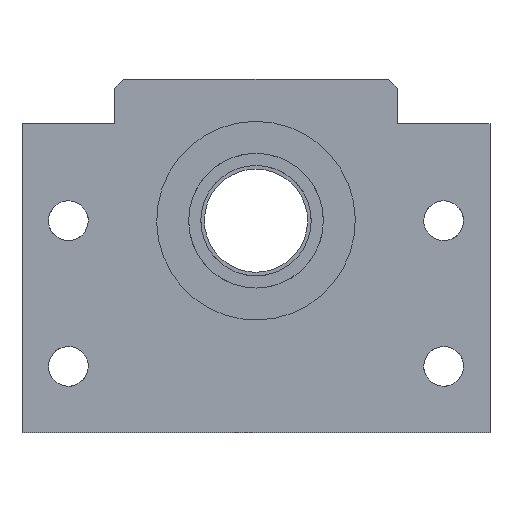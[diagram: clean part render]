
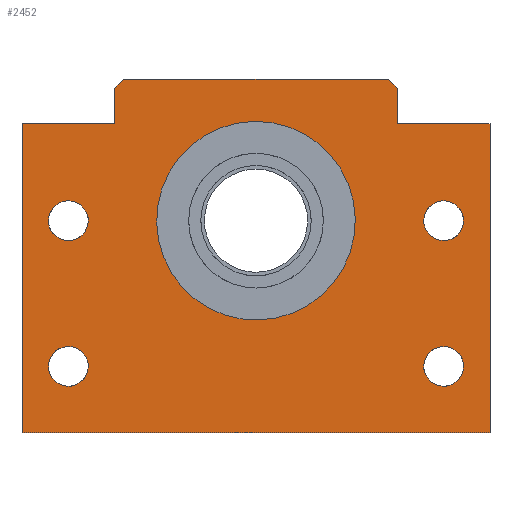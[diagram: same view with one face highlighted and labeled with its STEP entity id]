
A CAD part, left-side view. The second image highlights one B-rep face of the part: STEP entity #2452.
In plain terms, the highlighted planar face has unit normal (-1, 0, 0).
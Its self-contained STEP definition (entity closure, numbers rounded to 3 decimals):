
#70=CARTESIAN_POINT('Vertex',(-42.,38.551,-30.843)) ;
#75=CARTESIAN_POINT('Axis2P3D Location',(-42.,42.5,-33.)) ;
#79=CARTESIAN_POINT('Vertex',(-42.,46.449,-35.157)) ;
#130=CARTESIAN_POINT('Axis2P3D Location',(-42.,42.5,-33.)) ;
#272=CARTESIAN_POINT('Line Origine',(-42.,0.,-48.)) ;
#276=CARTESIAN_POINT('Vertex',(-42.,-53.,-48.)) ;
#278=CARTESIAN_POINT('Vertex',(-42.,53.,-48.)) ;
#384=CARTESIAN_POINT('Line Origine',(-42.,-53.,-13.)) ;
#388=CARTESIAN_POINT('Vertex',(-42.,-53.,22.)) ;
#478=CARTESIAN_POINT('Line Origine',(-42.,-42.5,22.)) ;
#482=CARTESIAN_POINT('Vertex',(-42.,-32.,22.)) ;
#545=CARTESIAN_POINT('Line Origine',(-42.,-32.,26.)) ;
#549=CARTESIAN_POINT('Vertex',(-42.,-32.,30.)) ;
#587=CARTESIAN_POINT('Vertex',(-42.,-30.,32.)) ;
#590=CARTESIAN_POINT('Line Origine',(-42.,-31.,31.)) ;
#618=CARTESIAN_POINT('Vertex',(-42.,30.,32.)) ;
#621=CARTESIAN_POINT('Line Origine',(-42.,0.,32.)) ;
#649=CARTESIAN_POINT('Vertex',(-42.,32.,30.)) ;
#652=CARTESIAN_POINT('Line Origine',(-42.,31.,31.)) ;
#680=CARTESIAN_POINT('Vertex',(-42.,32.,22.)) ;
#683=CARTESIAN_POINT('Line Origine',(-42.,32.,26.)) ;
#695=CARTESIAN_POINT('Line Origine',(-42.,42.5,22.)) ;
#699=CARTESIAN_POINT('Vertex',(-42.,53.,22.)) ;
#762=CARTESIAN_POINT('Axis2P3D Location',(-42.,0.,0.)) ;
#766=CARTESIAN_POINT('Vertex',(-42.,19.746,10.787)) ;
#768=CARTESIAN_POINT('Vertex',(-42.,-19.746,-10.787)) ;
#797=CARTESIAN_POINT('Axis2P3D Location',(-42.,0.,0.)) ;
#1666=CARTESIAN_POINT('Line Origine',(-42.,53.,-13.)) ;
#2239=CARTESIAN_POINT('Vertex',(-42.,38.551,2.157)) ;
#2242=CARTESIAN_POINT('Axis2P3D Location',(-42.,42.5,0.)) ;
#2246=CARTESIAN_POINT('Vertex',(-42.,46.449,-2.157)) ;
#2262=CARTESIAN_POINT('Axis2P3D Location',(-42.,42.5,0.)) ;
#2387=CARTESIAN_POINT('Axis2P3D Location',(-42.,0.,0.)) ;
#2416=CARTESIAN_POINT('Axis2P3D Location',(-42.,-42.5,0.)) ;
#2420=CARTESIAN_POINT('Vertex',(-42.,-46.449,2.157)) ;
#2422=CARTESIAN_POINT('Vertex',(-42.,-38.551,-2.157)) ;
#2425=CARTESIAN_POINT('Axis2P3D Location',(-42.,-42.5,0.)) ;
#2434=CARTESIAN_POINT('Axis2P3D Location',(-42.,-42.5,-33.)) ;
#2438=CARTESIAN_POINT('Vertex',(-42.,-46.449,-30.843)) ;
#2440=CARTESIAN_POINT('Vertex',(-42.,-38.551,-35.157)) ;
#2443=CARTESIAN_POINT('Axis2P3D Location',(-42.,-42.5,-33.)) ;
#76=DIRECTION('Axis2P3D Direction',(-1.,0.,-0.)) ;
#131=DIRECTION('Axis2P3D Direction',(-1.,0.,-0.)) ;
#273=DIRECTION('Vector Direction',(0.,-1.,0.)) ;
#385=DIRECTION('Vector Direction',(0.,0.,1.)) ;
#479=DIRECTION('Vector Direction',(0.,1.,0.)) ;
#546=DIRECTION('Vector Direction',(0.,0.,1.)) ;
#591=DIRECTION('Vector Direction',(0.,0.707,0.707)) ;
#622=DIRECTION('Vector Direction',(0.,1.,0.)) ;
#653=DIRECTION('Vector Direction',(0.,-0.707,0.707)) ;
#684=DIRECTION('Vector Direction',(0.,0.,-1.)) ;
#696=DIRECTION('Vector Direction',(0.,1.,0.)) ;
#763=DIRECTION('Axis2P3D Direction',(1.,0.,-0.)) ;
#798=DIRECTION('Axis2P3D Direction',(1.,0.,-0.)) ;
#1667=DIRECTION('Vector Direction',(0.,0.,-1.)) ;
#2243=DIRECTION('Axis2P3D Direction',(-1.,0.,0.)) ;
#2263=DIRECTION('Axis2P3D Direction',(-1.,0.,0.)) ;
#2388=DIRECTION('Axis2P3D Direction',(1.,0.,0.)) ;
#2389=DIRECTION('Axis2P3D XDirection',(0.,1.,0.)) ;
#2417=DIRECTION('Axis2P3D Direction',(1.,0.,0.)) ;
#2426=DIRECTION('Axis2P3D Direction',(1.,0.,0.)) ;
#2435=DIRECTION('Axis2P3D Direction',(1.,0.,0.)) ;
#2444=DIRECTION('Axis2P3D Direction',(1.,0.,0.)) ;
#77=AXIS2_PLACEMENT_3D('Circle Axis2P3D',#75,#76,$) ;
#132=AXIS2_PLACEMENT_3D('Circle Axis2P3D',#130,#131,$) ;
#764=AXIS2_PLACEMENT_3D('Circle Axis2P3D',#762,#763,$) ;
#799=AXIS2_PLACEMENT_3D('Circle Axis2P3D',#797,#798,$) ;
#2244=AXIS2_PLACEMENT_3D('Circle Axis2P3D',#2242,#2243,$) ;
#2264=AXIS2_PLACEMENT_3D('Circle Axis2P3D',#2262,#2263,$) ;
#2390=AXIS2_PLACEMENT_3D('Plane Axis2P3D',#2387,#2388,#2389) ;
#2418=AXIS2_PLACEMENT_3D('Circle Axis2P3D',#2416,#2417,$) ;
#2427=AXIS2_PLACEMENT_3D('Circle Axis2P3D',#2425,#2426,$) ;
#2436=AXIS2_PLACEMENT_3D('Circle Axis2P3D',#2434,#2435,$) ;
#2445=AXIS2_PLACEMENT_3D('Circle Axis2P3D',#2443,#2444,$) ;
#2393=ORIENTED_EDGE('',*,*,#594,.F.) ;
#2394=ORIENTED_EDGE('',*,*,#625,.F.) ;
#2395=ORIENTED_EDGE('',*,*,#656,.F.) ;
#2396=ORIENTED_EDGE('',*,*,#687,.F.) ;
#2397=ORIENTED_EDGE('',*,*,#701,.F.) ;
#2398=ORIENTED_EDGE('',*,*,#1670,.F.) ;
#2399=ORIENTED_EDGE('',*,*,#280,.F.) ;
#2400=ORIENTED_EDGE('',*,*,#390,.F.) ;
#2401=ORIENTED_EDGE('',*,*,#484,.F.) ;
#2402=ORIENTED_EDGE('',*,*,#551,.F.) ;
#2405=ORIENTED_EDGE('',*,*,#2266,.T.) ;
#2406=ORIENTED_EDGE('',*,*,#2248,.T.) ;
#2409=ORIENTED_EDGE('',*,*,#81,.T.) ;
#2410=ORIENTED_EDGE('',*,*,#134,.T.) ;
#2413=ORIENTED_EDGE('',*,*,#801,.T.) ;
#2414=ORIENTED_EDGE('',*,*,#770,.T.) ;
#2431=ORIENTED_EDGE('',*,*,#2424,.T.) ;
#2432=ORIENTED_EDGE('',*,*,#2429,.T.) ;
#2449=ORIENTED_EDGE('',*,*,#2442,.T.) ;
#2450=ORIENTED_EDGE('',*,*,#2447,.T.) ;
#2407=FACE_BOUND('',#2404,.T.) ;
#2411=FACE_BOUND('',#2408,.T.) ;
#2415=FACE_BOUND('',#2412,.T.) ;
#2433=FACE_BOUND('',#2430,.T.) ;
#2451=FACE_BOUND('',#2448,.T.) ;
#274=VECTOR('Line Direction',#273,1.) ;
#386=VECTOR('Line Direction',#385,1.) ;
#480=VECTOR('Line Direction',#479,1.) ;
#547=VECTOR('Line Direction',#546,1.) ;
#592=VECTOR('Line Direction',#591,1.) ;
#623=VECTOR('Line Direction',#622,1.) ;
#654=VECTOR('Line Direction',#653,1.) ;
#685=VECTOR('Line Direction',#684,1.) ;
#697=VECTOR('Line Direction',#696,1.) ;
#1668=VECTOR('Line Direction',#1667,1.) ;
#2452=ADVANCED_FACE('BK25(H)',(#2403,#2407,#2411,#2415,#2433,#2451),#2391,.F.) ;
#78=CIRCLE('generated circle',#77,4.5) ;
#133=CIRCLE('generated circle',#132,4.5) ;
#765=CIRCLE('generated circle',#764,22.5) ;
#800=CIRCLE('generated circle',#799,22.5) ;
#2245=CIRCLE('generated circle',#2244,4.5) ;
#2265=CIRCLE('generated circle',#2264,4.5) ;
#2419=CIRCLE('generated circle',#2418,4.5) ;
#2428=CIRCLE('generated circle',#2427,4.5) ;
#2437=CIRCLE('generated circle',#2436,4.5) ;
#2446=CIRCLE('generated circle',#2445,4.5) ;
#81=EDGE_CURVE('',#80,#71,#78,.F.) ;
#134=EDGE_CURVE('',#71,#80,#133,.F.) ;
#280=EDGE_CURVE('',#277,#279,#275,.F.) ;
#390=EDGE_CURVE('',#389,#277,#387,.F.) ;
#484=EDGE_CURVE('',#483,#389,#481,.F.) ;
#551=EDGE_CURVE('',#550,#483,#548,.F.) ;
#594=EDGE_CURVE('',#588,#550,#593,.F.) ;
#625=EDGE_CURVE('',#619,#588,#624,.F.) ;
#656=EDGE_CURVE('',#650,#619,#655,.T.) ;
#687=EDGE_CURVE('',#681,#650,#686,.F.) ;
#701=EDGE_CURVE('',#700,#681,#698,.F.) ;
#770=EDGE_CURVE('',#767,#769,#765,.T.) ;
#801=EDGE_CURVE('',#769,#767,#800,.T.) ;
#1670=EDGE_CURVE('',#279,#700,#1669,.F.) ;
#2248=EDGE_CURVE('',#2247,#2240,#2245,.F.) ;
#2266=EDGE_CURVE('',#2240,#2247,#2265,.F.) ;
#2424=EDGE_CURVE('',#2421,#2423,#2419,.T.) ;
#2429=EDGE_CURVE('',#2423,#2421,#2428,.T.) ;
#2442=EDGE_CURVE('',#2439,#2441,#2437,.T.) ;
#2447=EDGE_CURVE('',#2441,#2439,#2446,.T.) ;
#2392=EDGE_LOOP('',(#2393,#2394,#2395,#2396,#2397,#2398,#2399,#2400,#2401,#2402)) ;
#2404=EDGE_LOOP('',(#2405,#2406)) ;
#2408=EDGE_LOOP('',(#2409,#2410)) ;
#2412=EDGE_LOOP('',(#2413,#2414)) ;
#2430=EDGE_LOOP('',(#2431,#2432)) ;
#2448=EDGE_LOOP('',(#2449,#2450)) ;
#2403=FACE_OUTER_BOUND('',#2392,.T.) ;
#275=LINE('Line',#272,#274) ;
#387=LINE('Line',#384,#386) ;
#481=LINE('Line',#478,#480) ;
#548=LINE('Line',#545,#547) ;
#593=LINE('Line',#590,#592) ;
#624=LINE('Line',#621,#623) ;
#655=LINE('Line',#652,#654) ;
#686=LINE('Line',#683,#685) ;
#698=LINE('Line',#695,#697) ;
#1669=LINE('Line',#1666,#1668) ;
#2391=PLANE('Plane',#2390) ;
#71=VERTEX_POINT('',#70) ;
#80=VERTEX_POINT('',#79) ;
#277=VERTEX_POINT('',#276) ;
#279=VERTEX_POINT('',#278) ;
#389=VERTEX_POINT('',#388) ;
#483=VERTEX_POINT('',#482) ;
#550=VERTEX_POINT('',#549) ;
#588=VERTEX_POINT('',#587) ;
#619=VERTEX_POINT('',#618) ;
#650=VERTEX_POINT('',#649) ;
#681=VERTEX_POINT('',#680) ;
#700=VERTEX_POINT('',#699) ;
#767=VERTEX_POINT('',#766) ;
#769=VERTEX_POINT('',#768) ;
#2240=VERTEX_POINT('',#2239) ;
#2247=VERTEX_POINT('',#2246) ;
#2421=VERTEX_POINT('',#2420) ;
#2423=VERTEX_POINT('',#2422) ;
#2439=VERTEX_POINT('',#2438) ;
#2441=VERTEX_POINT('',#2440) ;
